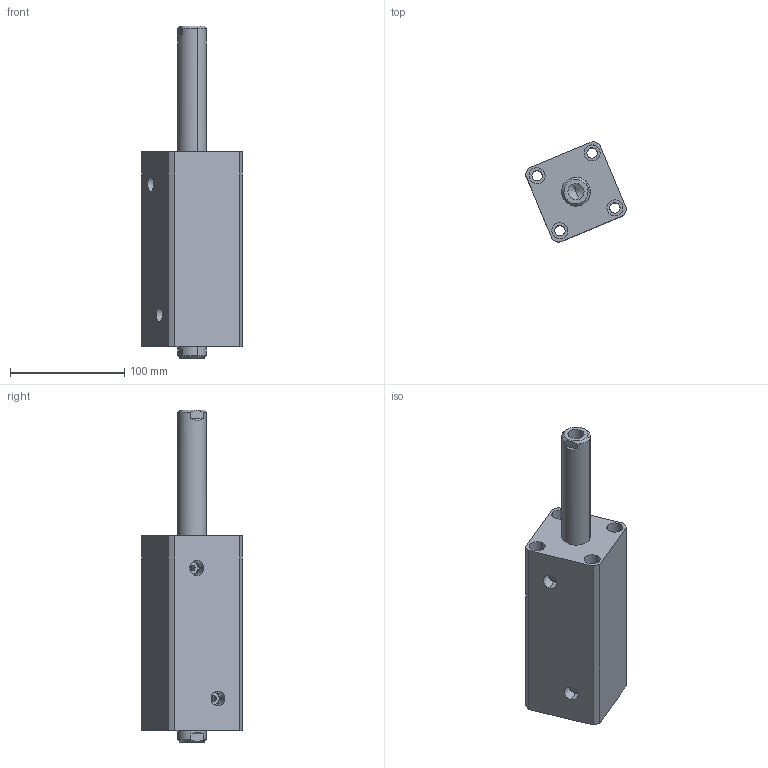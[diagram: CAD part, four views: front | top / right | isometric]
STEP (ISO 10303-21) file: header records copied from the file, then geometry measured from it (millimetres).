
FILE_DESCRIPTION (( 'STEP AP214' ), '1' );
FILE_NAME ('chtb-sw40x100n_asm.STEP', '2018-06-09T00:35:07', ( 'Windows' ), ( 'Microsoft' ), 'SwSTEP 2.0', 'SolidWorks 2015', '' );
FILE_SCHEMA (( 'AUTOMOTIVE_DESIGN' ));
Length unit declared in the file: millimetre
Products named in the file (4): CHTB-SW40X100NBT; CHTB-SD40QG; chtb-sw40x100n_asm; CHTB-SW40X100NHSG
Assembly tree (3 placements, depth 2):
  chtb-sw40x100n_asm
    CHTB-SD40QG
    CHTB-SW40X100NBT
    CHTB-SW40X100NHSG
Bounding box: 88.11 x 88.11 x 290 mm (x, y, z)
Volume: 746559.5 mm3; surface area: 134603.6 mm2
Topology: 3 solids, 3 shells, 167 faces, 429 edges, 282 vertices
Faces by surface type: cylinder 84, plane 40, cone 17, bspline 14, torus 12
Entity records: 10325 total; most frequent: CARTESIAN_POINT 6131, ORIENTED_EDGE 838, DIRECTION 822, EDGE_CURVE 419, AXIS2_PLACEMENT_3D 348, VERTEX_POINT 282, EDGE_LOOP 207, CIRCLE 189
